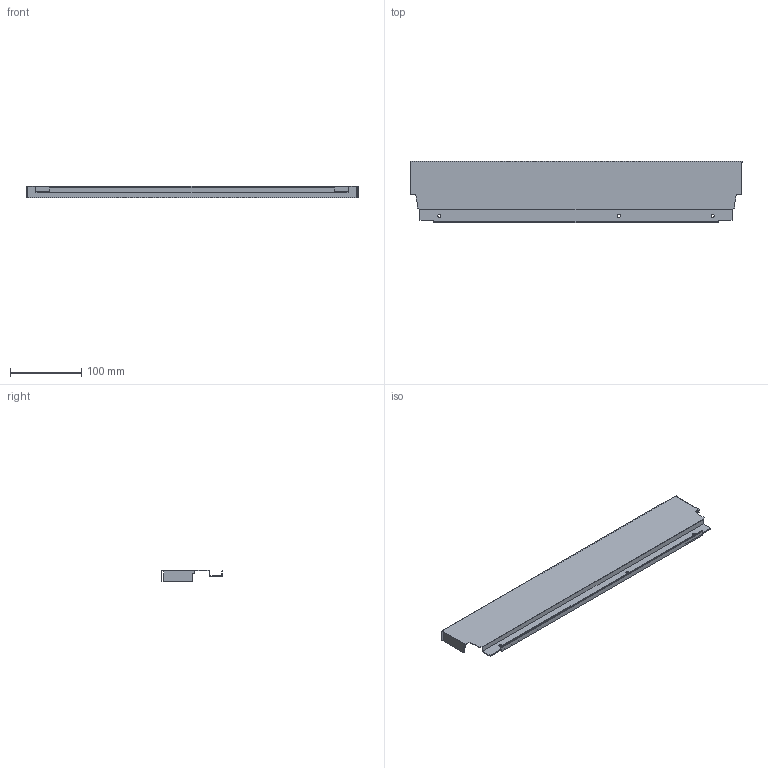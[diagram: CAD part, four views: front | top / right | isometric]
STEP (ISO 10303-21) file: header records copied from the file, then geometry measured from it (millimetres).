
FILE_DESCRIPTION (( 'STEP AP214' ), '1' );
FILE_NAME ('_DWD_XP Stahlrückwand_H86_KAB550_S18.step', '2010-07-08T12:10:20', ( 'grass' ), ( '' ), 'SwSTEP 2.0', 'SolidWorks 2010', '' );
FILE_SCHEMA (( 'AUTOMOTIVE_DESIGN' ));
Length unit declared in the file: millimetre
Products named in the file (1): _DWD_XP Stahlrückwand_H86_KAB550_S18
Bounding box: 465 x 85.79 x 16 mm (x, y, z)
Volume: 49386.1 mm3; surface area: 107820.2 mm2
Topology: 1 solids, 1 shells, 50 faces, 144 edges, 96 vertices
Faces by surface type: plane 44, cylinder 6
Entity records: 1666 total; most frequent: CARTESIAN_POINT 291, ORIENTED_EDGE 288, DIRECTION 258, EDGE_CURVE 144, LINE 132, VECTOR 132, VERTEX_POINT 96, AXIS2_PLACEMENT_3D 63
